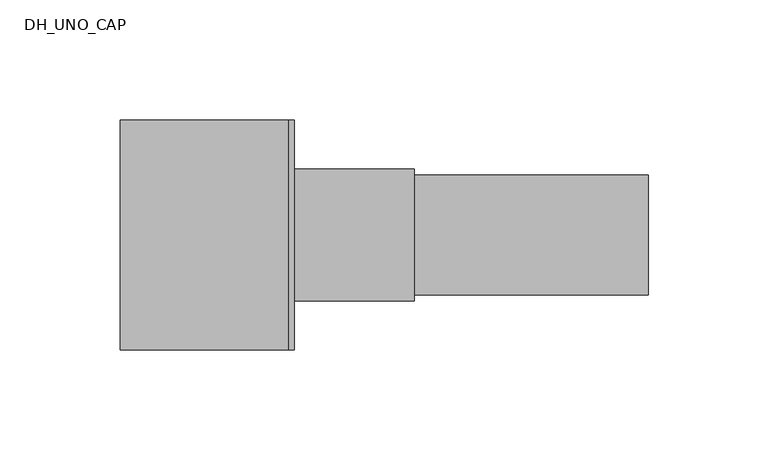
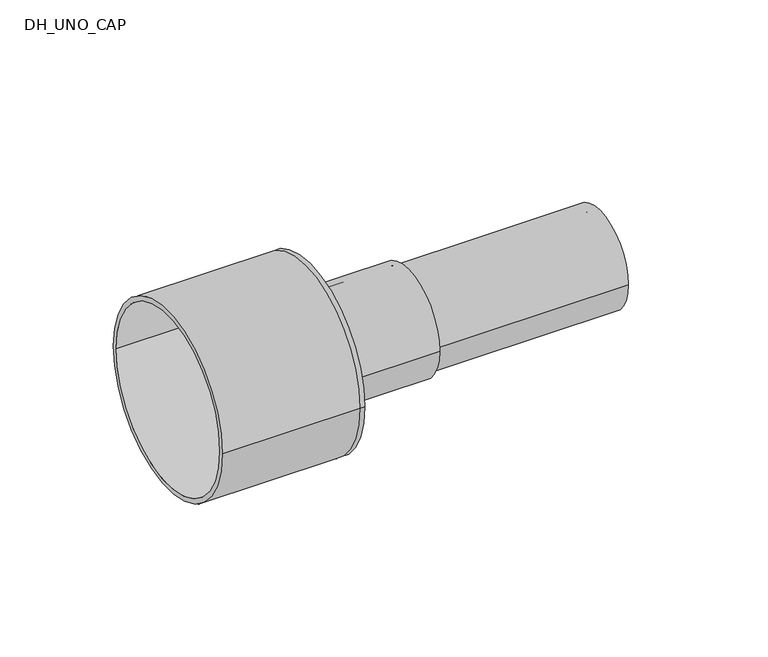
"""IFC4 building model written with IfcOpenShell, lengths in millimetres: pipe fitting geometry, DH_UNO_CAP : RAUTHERMEX UNO 11 COOL - Schrink Cap."""

from ifc_helpers import new_model, si_unit, point, frame, origin, origin_2d, place, context, project, spatial, polyline, circle_curve, trimmed, segment, composite_curve, outline, extrude, source, transform, mapped, element, save
from ifc_brep_helpers import plane_surface, cylinder_surface, revolved_surface, advanced_brep


def dh_uno_cap_0af3b0e1(model_context):
    return source(origin(), model_context, "Body", "SolidModel", [
        extrude(outline(composite_curve([segment(trimmed(circle_curve(origin_2d(), 25.0), [point((-25.0, 0.0))], [point((25.0, 0.0))], False, "CARTESIAN"), True, "CONTINUOUS"), segment(trimmed(circle_curve(origin_2d(), 25.0), [point((25.0, 0.0))], [point((-25.0, 0.0))], False, "CARTESIAN"), True, "CONTINUOUS")], self_intersect=False), holes=[composite_curve([segment(trimmed(circle_curve(origin_2d(), 20.4), [point((-20.4, 0.0))], [point((20.4, 0.0))], True, "CARTESIAN"), True, "CONTINUOUS"), segment(trimmed(circle_curve(origin_2d(), 20.4), [point((20.4, 0.0))], [point((-20.4, 0.0))], True, "CARTESIAN"), True, "CONTINUOUS")], self_intersect=False)]), frame((0.0, 0.0, 0.0), z_axis=(1.0, 0.0, 0.0), x_axis=(0.0, 1.0, 0.0)), (0.0, 0.0, 1.0), 150.0),
        advanced_brep(
        [(-70.0, -48.0, 0.0), (-70.0, 48.0, 0.0), (-70.0, -45.5, 0.0), (-70.0, 45.5, 0.0), (0.0, -45.5, 0.0), (0.0, 45.5, 0.0), (0.0, -48.0, 0.0), (0.0, 48.0, 0.0), (0.0, 25.0, 0.0), (0.0, -25.0, 0.0), (2.5, -48.0, 0.0), (2.5, 48.0, 0.0), (2.5, -25.0, 0.0), (2.5, 25.0, 0.0)],
        [
            (0, 1, circle_curve(frame((-70.0, 0.0, 0.0), z_axis=(-1.0, 0.0, 0.0), x_axis=(0.0, 1.0, 0.0)), 48.0)),
            (1, 0, circle_curve(frame((-70.0, 0.0, 0.0), z_axis=(-1.0, 0.0, 0.0), x_axis=(0.0, 1.0, 0.0)), 48.0)),
            (2, 3, circle_curve(frame((-70.0, 0.0, 0.0), z_axis=(1.0, 0.0, 0.0), x_axis=(0.0, 1.0, 0.0)), 45.5)),
            (3, 2, circle_curve(frame((-70.0, 0.0, 0.0), z_axis=(1.0, 0.0, 0.0), x_axis=(0.0, 1.0, 0.0)), 45.5)),
            (2, 4),
            (4, 5, circle_curve(frame((0.0, 0.0, 0.0), z_axis=(1.0, 0.0, 0.0), x_axis=(0.0, 1.0, 0.0)), 45.5)),
            (5, 3),
            (5, 4, circle_curve(frame((0.0, 0.0, 0.0), z_axis=(1.0, 0.0, 0.0), x_axis=(0.0, 1.0, 0.0)), 45.5)),
            (0, 6),
            (6, 7, circle_curve(frame((0.0, 0.0, 0.0), z_axis=(-1.0, 0.0, 0.0), x_axis=(0.0, 1.0, 0.0)), 48.0)),
            (7, 1),
            (7, 6, circle_curve(frame((0.0, 0.0, 0.0), z_axis=(-1.0, 0.0, 0.0), x_axis=(0.0, 1.0, 0.0)), 48.0)),
            (8, 9, circle_curve(frame((0.0, 0.0, 0.0), z_axis=(1.0, 0.0, 0.0), x_axis=(0.0, 1.0, 0.0)), 25.0)),
            (9, 8, circle_curve(frame((0.0, 0.0, 0.0), z_axis=(1.0, 0.0, 0.0), x_axis=(0.0, 1.0, 0.0)), 25.0)),
            (10, 11, circle_curve(frame((2.5, 0.0, 0.0), z_axis=(1.0, 0.0, 0.0), x_axis=(0.0, 1.0, 0.0)), 48.0)),
            (11, 10, circle_curve(frame((2.5, 0.0, 0.0), z_axis=(1.0, 0.0, 0.0), x_axis=(0.0, 1.0, 0.0)), 48.0)),
            (12, 13, circle_curve(frame((2.5, 0.0, 0.0), z_axis=(-1.0, 0.0, 0.0), x_axis=(0.0, 1.0, 0.0)), 25.0)),
            (13, 12, circle_curve(frame((2.5, 0.0, 0.0), z_axis=(-1.0, 0.0, 0.0), x_axis=(0.0, 1.0, 0.0)), 25.0)),
            (11, 7),
            (6, 10),
            (8, 13),
            (12, 9),
        ],
        [
            plane_surface(frame((-70.0, 0.0, 0.0), z_axis=(-1.0, 0.0, 0.0), x_axis=(0.0, 0.0, 1.0))),
            revolved_surface(polyline([(0.0, 45.5, 0.0), (-70.0, 45.5, 0.0)]), (-70.0, 0.0, 0.0), (1.0, 0.0, 0.0)),
            cylinder_surface(frame((-70.0, 0.0, 0.0), z_axis=(-1.0, 0.0, 0.0), x_axis=(0.0, 1.0, 0.0)), 48.0),
            plane_surface(frame((0.0, 0.0, 0.0), z_axis=(-1.0, 0.0, 0.0), x_axis=(0.0, 0.0, 1.0))),
            plane_surface(frame((2.5, 0.0, 0.0), z_axis=(1.0, 0.0, 0.0), x_axis=(0.0, 0.0, 1.0))),
            cylinder_surface(frame((0.0, 0.0, 0.0), z_axis=(-1.0, 0.0, 0.0), x_axis=(0.0, 1.0, 0.0)), 48.0),
            revolved_surface(polyline([(0.0, 25.0, 0.0), (2.5, 25.0, 0.0)]), (0.0, 0.0, 0.0), (-1.0, 0.0, 0.0)),
        ],
        [
            (0, [[1, 2], [3, 4]]),
            (1, [[-3, 5, 6, 7]]),
            (1, [[-4, -7, 8, -5]]),
            (2, [[-1, 9, 10, 11]]),
            (2, [[-2, -11, 12, -9]]),
            (3, [[-6, -8], [13, 14]]),
            (4, [[15, 16], [17, 18]]),
            (5, [[-16, 19, -10, 20]]),
            (5, [[-15, -20, -12, -19]]),
            (6, [[21, -17, 22, -13]]),
            (6, [[-21, -14, -22, -18]]),
        ],
    ),
        extrude(outline(composite_curve([segment(trimmed(circle_curve(origin_2d(), 27.5), [point((-27.5, 0.0))], [point((27.5, 0.0))], False, "CARTESIAN"), True, "CONTINUOUS"), segment(trimmed(circle_curve(origin_2d(), 27.5), [point((27.5, 0.0))], [point((-27.5, 0.0))], False, "CARTESIAN"), True, "CONTINUOUS")], self_intersect=False), holes=[composite_curve([segment(trimmed(circle_curve(origin_2d(), 25.0), [point((-25.0, 0.0))], [point((25.0, 0.0))], True, "CARTESIAN"), True, "CONTINUOUS"), segment(trimmed(circle_curve(origin_2d(), 25.0), [point((25.0, 0.0))], [point((-25.0, 0.0))], True, "CARTESIAN"), True, "CONTINUOUS")], self_intersect=False)]), frame((2.5, 0.0, 0.0), z_axis=(1.0, 0.0, 0.0), x_axis=(0.0, 1.0, 0.0)), (0.0, 0.0, 1.0), 50.0),
    ])


if __name__ == "__main__":
    model = new_model("IFC4")
    model_context = context("Model", 3, world=origin())
    ifc_project = project(units=[si_unit("LENGTHUNIT", "METRE", prefix="MILLI")], contexts=[model_context])
    site = spatial("IfcSite", under=ifc_project)
    building = spatial("IfcBuilding", under=site)
    placement = place(None, origin())
    dh_uno_cap_shape = dh_uno_cap_0af3b0e1(model_context)
    element("IfcPipeFitting", 1, ObjectType="DH_UNO_CAP : RAUTHERMEX UNO 11 COOL - Schrink Cap", at=placement, inside=building, context=model_context, shape_type="MappedRepresentation", body=[
        mapped(dh_uno_cap_shape, transform((0.0, 0.0, 0.0), x_axis=(1.0, 0.0, 0.0), y_axis=(0.0, 1.0, 0.0), z_axis=(0.0, 0.0, 1.0))),
    ])
    save(model, "model.ifc")
